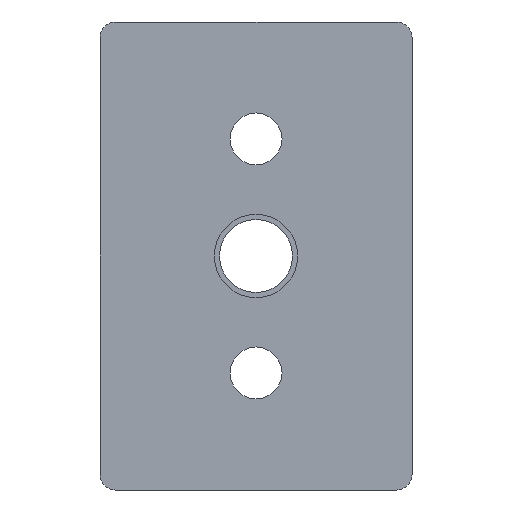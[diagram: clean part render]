
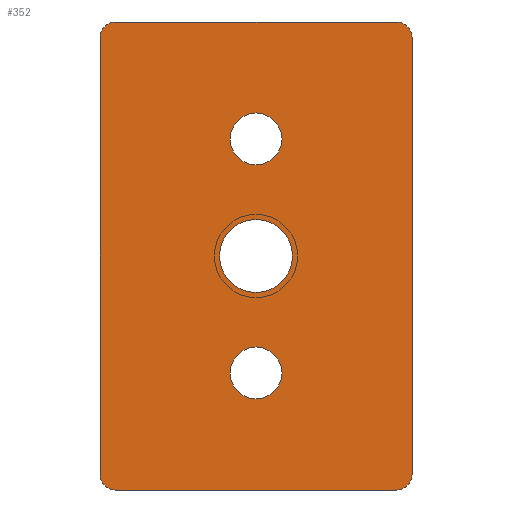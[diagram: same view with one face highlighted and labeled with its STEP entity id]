
A CAD part, front view. The second image highlights one B-rep face of the part: STEP entity #352.
In plain terms, the highlighted planar face has unit normal (0, -1, 0).
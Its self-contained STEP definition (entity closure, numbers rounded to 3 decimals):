
#1=CARTESIAN_POINT('',(0.,0.,-22.5));
#2=DIRECTION('',(0.,-1.,0.));
#3=DIRECTION('',(1.,0.,0.));
#4=AXIS2_PLACEMENT_3D('',#1,#2,#3);
#6=CARTESIAN_POINT('',(0.,0.,-22.5));
#7=DIRECTION('',(0.,-1.,0.));
#8=DIRECTION('',(-1.,0.,0.));
#9=AXIS2_PLACEMENT_3D('',#6,#7,#8);
#11=CARTESIAN_POINT('',(0.,0.,22.5));
#12=DIRECTION('',(0.,-1.,0.));
#13=DIRECTION('',(1.,0.,0.));
#14=AXIS2_PLACEMENT_3D('',#11,#12,#13);
#16=CARTESIAN_POINT('',(0.,0.,22.5));
#17=DIRECTION('',(0.,-1.,0.));
#18=DIRECTION('',(-1.,0.,0.));
#19=AXIS2_PLACEMENT_3D('',#16,#17,#18);
#21=CARTESIAN_POINT('',(0.,0.,0.));
#22=DIRECTION('',(0.,1.,0.));
#23=DIRECTION('',(1.,0.,0.));
#24=AXIS2_PLACEMENT_3D('',#21,#22,#23);
#26=CARTESIAN_POINT('',(0.,0.,0.));
#27=DIRECTION('',(0.,1.,0.));
#28=DIRECTION('',(-1.,0.,0.));
#29=AXIS2_PLACEMENT_3D('',#26,#27,#28);
#31=DIRECTION('',(0.,0.,-1.));
#32=VECTOR('',#31,84.);
#33=CARTESIAN_POINT('',(30.,0.,42.));
#34=LINE('',#33,#32);
#35=DIRECTION('',(-1.,0.,0.));
#36=VECTOR('',#35,54.);
#37=CARTESIAN_POINT('',(27.,0.,-45.));
#38=LINE('',#37,#36);
#39=DIRECTION('',(0.,0.,1.));
#40=VECTOR('',#39,84.);
#41=CARTESIAN_POINT('',(-30.,0.,-42.));
#42=LINE('',#41,#40);
#43=DIRECTION('',(1.,0.,0.));
#44=VECTOR('',#43,54.);
#45=CARTESIAN_POINT('',(-27.,0.,45.));
#46=LINE('',#45,#44);
#184=CARTESIAN_POINT('',(27.,0.,42.));
#185=DIRECTION('',(0.,-1.,0.));
#186=DIRECTION('',(1.,0.,0.));
#187=AXIS2_PLACEMENT_3D('',#184,#185,#186);
#202=CARTESIAN_POINT('',(-27.,0.,42.));
#203=DIRECTION('',(0.,-1.,0.));
#204=DIRECTION('',(0.,0.,1.));
#205=AXIS2_PLACEMENT_3D('',#202,#203,#204);
#220=CARTESIAN_POINT('',(-27.,0.,-42.));
#221=DIRECTION('',(0.,-1.,0.));
#222=DIRECTION('',(-1.,0.,0.));
#223=AXIS2_PLACEMENT_3D('',#220,#221,#222);
#238=CARTESIAN_POINT('',(27.,0.,-42.));
#239=DIRECTION('',(0.,-1.,0.));
#240=DIRECTION('',(0.,0.,-1.));
#241=AXIS2_PLACEMENT_3D('',#238,#239,#240);
#243=CARTESIAN_POINT('',(5.,0.,-22.5));
#244=CARTESIAN_POINT('',(-5.,0.,-22.5));
#245=VERTEX_POINT('',#243);
#246=VERTEX_POINT('',#244);
#247=CARTESIAN_POINT('',(5.,0.,22.5));
#248=CARTESIAN_POINT('',(-5.,0.,22.5));
#249=VERTEX_POINT('',#247);
#250=VERTEX_POINT('',#248);
#271=CARTESIAN_POINT('',(7.,0.,0.));
#272=CARTESIAN_POINT('',(-7.,0.,0.));
#273=VERTEX_POINT('',#271);
#274=VERTEX_POINT('',#272);
#280=CARTESIAN_POINT('',(27.,0.,45.));
#282=VERTEX_POINT('',#280);
#285=CARTESIAN_POINT('',(30.,0.,42.));
#286=VERTEX_POINT('',#285);
#288=CARTESIAN_POINT('',(-30.,0.,42.));
#290=VERTEX_POINT('',#288);
#293=CARTESIAN_POINT('',(-27.,0.,45.));
#294=VERTEX_POINT('',#293);
#296=CARTESIAN_POINT('',(30.,0.,-42.));
#298=VERTEX_POINT('',#296);
#301=CARTESIAN_POINT('',(27.,0.,-45.));
#302=VERTEX_POINT('',#301);
#304=CARTESIAN_POINT('',(-27.,0.,-45.));
#306=VERTEX_POINT('',#304);
#309=CARTESIAN_POINT('',(-30.,0.,-42.));
#310=VERTEX_POINT('',#309);
#311=CARTESIAN_POINT('',(0.,0.,0.));
#312=DIRECTION('',(0.,1.,0.));
#313=DIRECTION('',(1.,0.,0.));
#314=AXIS2_PLACEMENT_3D('',#311,#312,#313);
#315=PLANE('',#314);
#317=ORIENTED_EDGE('',*,*,#316,.F.);
#319=ORIENTED_EDGE('',*,*,#318,.T.);
#321=ORIENTED_EDGE('',*,*,#320,.F.);
#323=ORIENTED_EDGE('',*,*,#322,.T.);
#325=ORIENTED_EDGE('',*,*,#324,.F.);
#327=ORIENTED_EDGE('',*,*,#326,.T.);
#329=ORIENTED_EDGE('',*,*,#328,.F.);
#331=ORIENTED_EDGE('',*,*,#330,.T.);
#332=EDGE_LOOP('',(#317,#319,#321,#323,#325,#327,#329,#331));
#333=FACE_OUTER_BOUND('',#332,.F.);
#335=ORIENTED_EDGE('',*,*,#334,.T.);
#337=ORIENTED_EDGE('',*,*,#336,.T.);
#338=EDGE_LOOP('',(#335,#337));
#339=FACE_BOUND('',#338,.F.);
#341=ORIENTED_EDGE('',*,*,#340,.T.);
#343=ORIENTED_EDGE('',*,*,#342,.T.);
#344=EDGE_LOOP('',(#341,#343));
#345=FACE_BOUND('',#344,.F.);
#347=ORIENTED_EDGE('',*,*,#346,.F.);
#349=ORIENTED_EDGE('',*,*,#348,.F.);
#350=EDGE_LOOP('',(#347,#349));
#351=FACE_BOUND('',#350,.F.);
#352=ADVANCED_FACE('',(#333,#339,#345,#351),#315,.F.);
#5=CIRCLE('',#4,5.);
#10=CIRCLE('',#9,5.);
#15=CIRCLE('',#14,5.);
#20=CIRCLE('',#19,5.);
#25=CIRCLE('',#24,7.);
#30=CIRCLE('',#29,7.);
#188=CIRCLE('',#187,3.);
#206=CIRCLE('',#205,3.);
#224=CIRCLE('',#223,3.);
#242=CIRCLE('',#241,3.);
#316=EDGE_CURVE('',#286,#282,#188,.T.);
#318=EDGE_CURVE('',#286,#298,#34,.T.);
#320=EDGE_CURVE('',#302,#298,#242,.T.);
#322=EDGE_CURVE('',#302,#306,#38,.T.);
#324=EDGE_CURVE('',#310,#306,#224,.T.);
#326=EDGE_CURVE('',#310,#290,#42,.T.);
#328=EDGE_CURVE('',#294,#290,#206,.T.);
#330=EDGE_CURVE('',#294,#282,#46,.T.);
#334=EDGE_CURVE('',#245,#246,#5,.T.);
#336=EDGE_CURVE('',#246,#245,#10,.T.);
#340=EDGE_CURVE('',#249,#250,#15,.T.);
#342=EDGE_CURVE('',#250,#249,#20,.T.);
#346=EDGE_CURVE('',#273,#274,#25,.T.);
#348=EDGE_CURVE('',#274,#273,#30,.T.);
